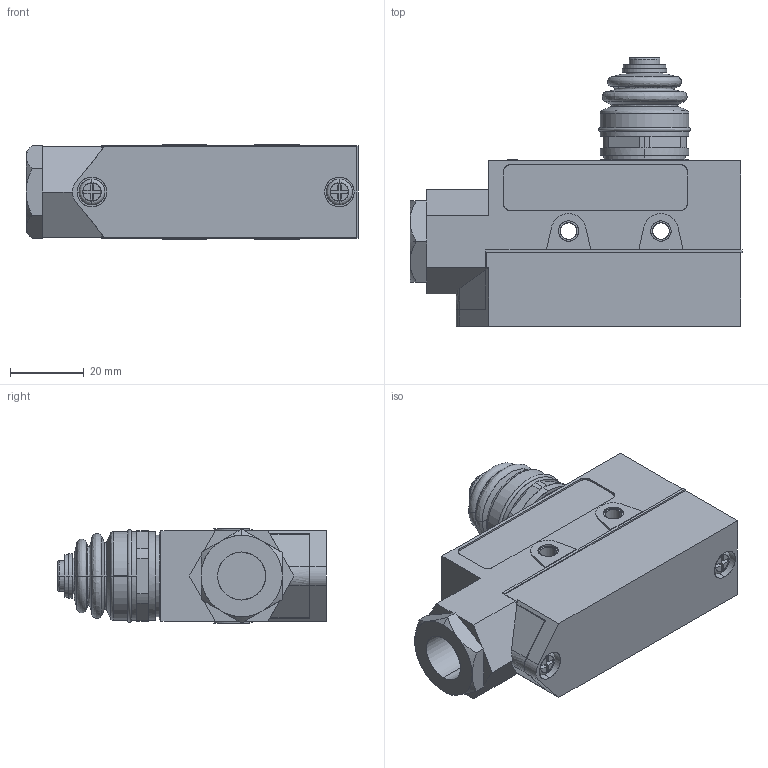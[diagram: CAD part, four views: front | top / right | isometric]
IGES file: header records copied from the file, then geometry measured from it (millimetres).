
Start section: SolidWorks IGES file using analytic representation for surfaces
Global section: file name: D:\X - Arquivos\PROEX\Empresas\P11 - METALTEX\01 - Produtos\IGES\6ª remessa\5ª etapa\TZ-6101.IGS; native system: SolidWorks 2012; preprocessor: SolidWorks 2012; author: Usuario; date: 190327.095825; units: millimetre
Bounding box: 89.9 x 72.8 x 25.5 mm (x, y, z)
Surface area: 18725.6 mm2 (no closed solid volume)
Topology: 0 solids, 0 shells, 342 faces, 3144 edges, 3144 vertices
Faces by surface type: bspline 268, revolution 74
